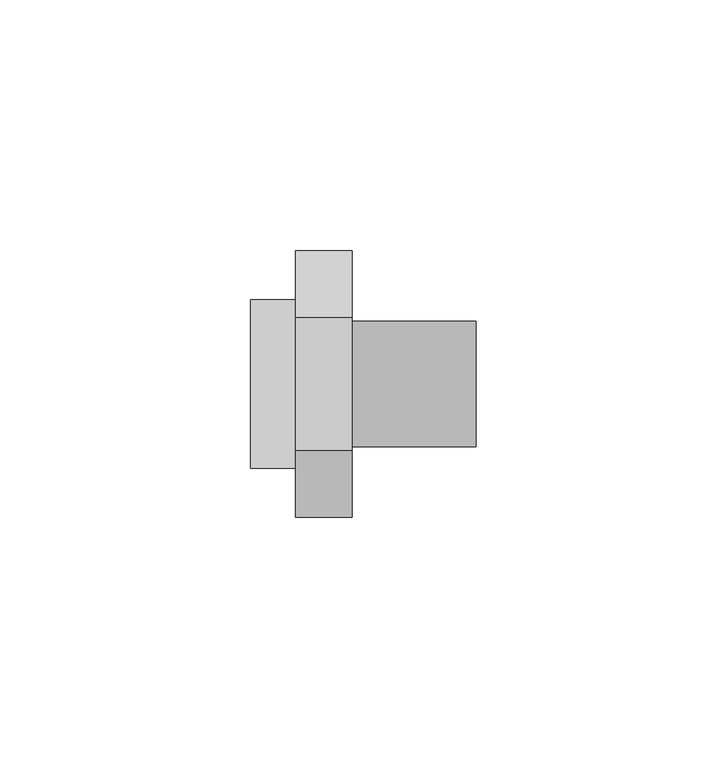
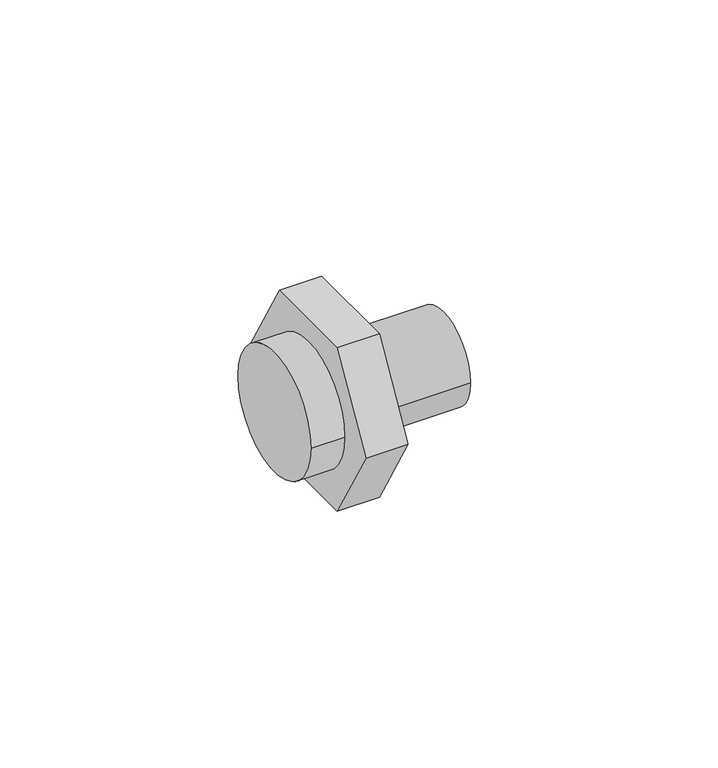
"""IFC4 building model written with IfcOpenShell, lengths in millimetres: pipe fitting geometry, 01101008 : Uniões múltiplas F/M/F."""

from ifc_helpers import new_model, si_unit, point, frame, origin, origin_2d, place, context, project, spatial, polyline, circle_curve, trimmed, segment, composite_curve, outline, extrude, source, transform, mapped, element, save


def pipe_fitting_cc256828(model_context):
    return source(origin(), model_context, "Body", "SweptSolid", [
        extrude(outline(composite_curve([segment(trimmed(circle_curve(origin_2d(), 16.8), [point((16.8, 0.0))], [point((-16.8, 0.0))], False, "CARTESIAN"), True, "CONTINUOUS"), segment(trimmed(circle_curve(origin_2d(), 16.8), [point((-16.8, 0.0))], [point((16.8, 0.0))], False, "CARTESIAN"), True, "CONTINUOUS")], self_intersect=False)), frame((0.0, 0.0, 0.0), z_axis=(1.0, 0.0, 0.0), x_axis=(0.0, 1.0, 0.0)), (0.0, 0.0, 1.0), 9.0),
        extrude(outline(polyline([(-13.2790562, 23.0), (13.2790562, 23.0), (26.5581124, 0.0), (13.2790562, -23.0), (-13.2790562, -23.0), (-26.5581124, 0.0), (-13.2790562, 23.0)])), frame((9.0, 0.0, 0.0), z_axis=(1.0, 0.0, 0.0), x_axis=(0.0, 1.0, 0.0)), (0.0, 0.0, 1.0), 11.25),
        extrude(outline(composite_curve([segment(trimmed(circle_curve(origin_2d(), 12.5), [point((-12.5, 0.0))], [point((12.5, 0.0))], False, "CARTESIAN"), True, "CONTINUOUS"), segment(trimmed(circle_curve(origin_2d(), 12.5), [point((12.5, 0.0))], [point((-12.5, 0.0))], False, "CARTESIAN"), True, "CONTINUOUS")], self_intersect=False)), frame((20.25, 0.0, 0.0), z_axis=(1.0, 0.0, 0.0), x_axis=(0.0, 1.0, 0.0)), (0.0, 0.0, 1.0), 24.75),
    ])


if __name__ == "__main__":
    model = new_model("IFC4")
    model_context = context("Model", 3, world=origin())
    ifc_project = project(units=[si_unit("LENGTHUNIT", "METRE", prefix="MILLI")], contexts=[model_context])
    site = spatial("IfcSite", under=ifc_project)
    building = spatial("IfcBuilding", under=site)
    placement = place(None, origin())
    pipe_fitting_shape = pipe_fitting_cc256828(model_context)
    element("IfcPipeFitting", 1, ObjectType="01101008 : Uniões múltiplas F/M/F", at=placement, inside=building, context=model_context, shape_type="MappedRepresentation", body=[
        mapped(pipe_fitting_shape, transform((0.0, 0.0, 0.0), x_axis=(1.0, 0.0, 0.0), y_axis=(0.0, 1.0, 0.0), z_axis=(0.0, 0.0, 1.0))),
    ])
    save(model, "model.ifc")
